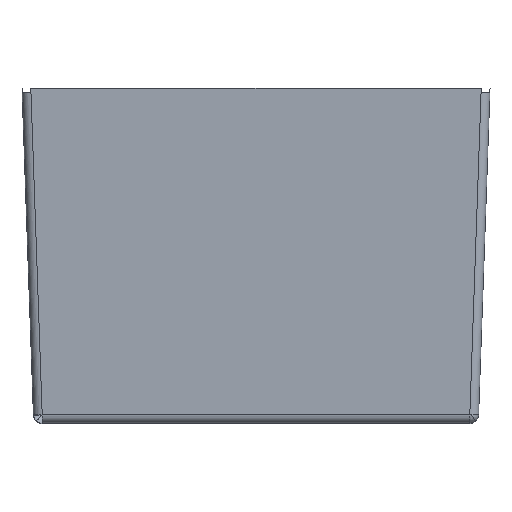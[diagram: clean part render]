
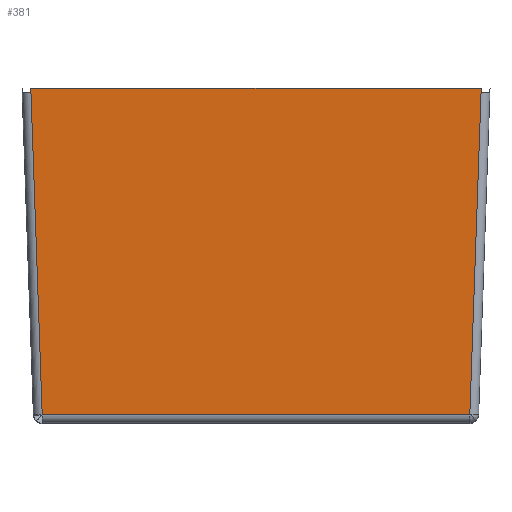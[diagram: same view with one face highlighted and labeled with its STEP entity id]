
A CAD part, top view. The second image highlights one B-rep face of the part: STEP entity #381.
In plain terms, the highlighted planar face has unit normal (0, 0.035, -0.999).
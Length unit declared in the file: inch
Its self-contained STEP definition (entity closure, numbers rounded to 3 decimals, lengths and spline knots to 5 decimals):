
#103 = VERTEX_POINT ( 'NONE', #341 ) ;
#105 = VERTEX_POINT ( 'NONE', #340 ) ;
#109 = EDGE_CURVE ( 'NONE', #105, #103, #433, .T. ) ;
#340 = CARTESIAN_POINT ( 'NONE',  ( 6.08032, -9.15872, 2.25517 ) ) ;
#341 = CARTESIAN_POINT ( 'NONE',  ( 6.40015, 0., 2.575 ) ) ;
#376 = ORIENTED_EDGE ( 'NONE', *, *, #377, .F. ) ;
#377 = EDGE_CURVE ( 'NONE', #103, #392, #544, .T. ) ;
#378 = ORIENTED_EDGE ( 'NONE', *, *, #388, .T. ) ;
#379 = VERTEX_POINT ( 'NONE', #540 ) ;
#381 = ADVANCED_FACE ( 'NONE', ( #539 ), #538, .F. ) ;
#383 = ORIENTED_EDGE ( 'NONE', *, *, #109, .F. ) ;
#384 = ORIENTED_EDGE ( 'NONE', *, *, #404, .F. ) ;
#388 = EDGE_CURVE ( 'NONE', #395, #379, #581, .T. ) ;
#389 = ORIENTED_EDGE ( 'NONE', *, *, #390, .T. ) ;
#390 = EDGE_CURVE ( 'NONE', #379, #392, #573, .T. ) ;
#391 = EDGE_CURVE ( 'NONE', #395, #401, #569, .T. ) ;
#392 = VERTEX_POINT ( 'NONE', #565 ) ;
#393 = EDGE_LOOP ( 'NONE', ( #394, #378, #389, #376, #383, #384 ) ) ;
#394 = ORIENTED_EDGE ( 'NONE', *, *, #391, .F. ) ;
#395 = VERTEX_POINT ( 'NONE', #564 ) ;
#401 = VERTEX_POINT ( 'NONE', #610 ) ;
#404 = EDGE_CURVE ( 'NONE', #401, #105, #608, .T. ) ;
#430 = DIRECTION ( 'NONE',  ( 0.035, 0.999, 0.035 ) ) ;
#431 = VECTOR ( 'NONE', #430, 39.37008 ) ;
#432 = CARTESIAN_POINT ( 'NONE',  ( 6.38428, -0.45461, 2.55912 ) ) ;
#433 = LINE ( 'NONE', #432, #431 ) ;
#534 = DIRECTION ( 'NONE',  ( 0., -0.999, -0.035 ) ) ;
#535 = DIRECTION ( 'NONE',  ( 0., -0.035, 0.999 ) ) ;
#536 = CARTESIAN_POINT ( 'NONE',  ( -6.65, 0., 2.575 ) ) ;
#537 = AXIS2_PLACEMENT_3D ( 'NONE', #536, #535, #534 ) ;
#538 = PLANE ( 'NONE',  #537 ) ;
#539 = FACE_OUTER_BOUND ( 'NONE', #393, .T. ) ;
#540 = CARTESIAN_POINT ( 'NONE',  ( -6.40015, 0.125, 2.57937 ) ) ;
#541 = DIRECTION ( 'NONE',  ( 0., 0.999, 0.035 ) ) ;
#542 = VECTOR ( 'NONE', #541, 39.37008 ) ;
#543 = CARTESIAN_POINT ( 'NONE',  ( 6.40015, 0., 2.575 ) ) ;
#544 = LINE ( 'NONE', #543, #542 ) ;
#564 = CARTESIAN_POINT ( 'NONE',  ( -6.40015, 0., 2.575 ) ) ;
#565 = CARTESIAN_POINT ( 'NONE',  ( 6.40015, 0.125, 2.57937 ) ) ;
#566 = DIRECTION ( 'NONE',  ( 0.035, -0.999, -0.035 ) ) ;
#567 = VECTOR ( 'NONE', #566, 39.37008 ) ;
#568 = CARTESIAN_POINT ( 'NONE',  ( -6.40046, 0.0087, 2.5753 ) ) ;
#569 = LINE ( 'NONE', #568, #567 ) ;
#570 = DIRECTION ( 'NONE',  ( 1., 0., 0. ) ) ;
#571 = VECTOR ( 'NONE', #570, 39.37008 ) ;
#572 = CARTESIAN_POINT ( 'NONE',  ( -6.40015, 0.125, 2.57937 ) ) ;
#573 = LINE ( 'NONE', #572, #571 ) ;
#574 = DIRECTION ( 'NONE',  ( 0., 0.999, 0.035 ) ) ;
#575 = VECTOR ( 'NONE', #574, 39.37008 ) ;
#576 = CARTESIAN_POINT ( 'NONE',  ( -6.40015, 0., 2.575 ) ) ;
#581 = LINE ( 'NONE', #576, #575 ) ;
#605 = DIRECTION ( 'NONE',  ( 1., 0., 0. ) ) ;
#606 = VECTOR ( 'NONE', #605, 39.37008 ) ;
#607 = CARTESIAN_POINT ( 'NONE',  ( 6.0719, -9.15872, 2.25517 ) ) ;
#608 = LINE ( 'NONE', #607, #606 ) ;
#610 = CARTESIAN_POINT ( 'NONE',  ( -6.08032, -9.15872, 2.25517 ) ) ;
